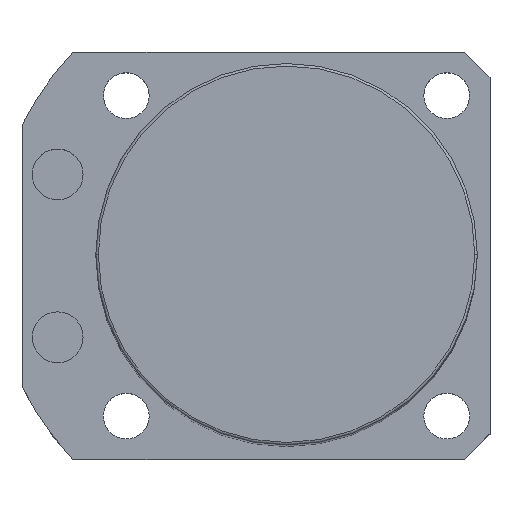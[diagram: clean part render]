
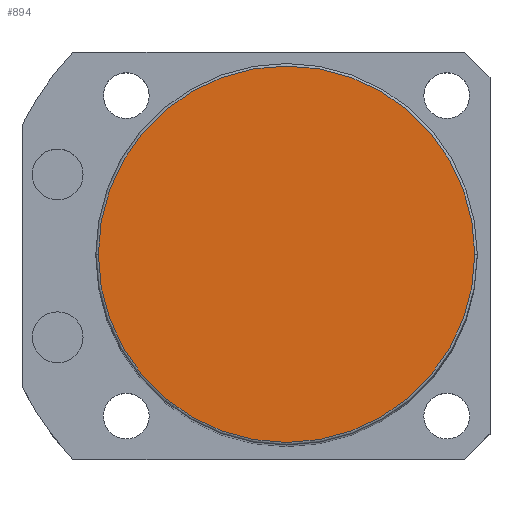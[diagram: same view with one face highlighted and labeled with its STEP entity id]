
A CAD part, top view. The second image highlights one B-rep face of the part: STEP entity #894.
In plain terms, the highlighted planar face has unit normal (0, 0, 1).
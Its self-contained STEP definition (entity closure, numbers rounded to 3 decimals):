
#1 = ORIENTED_EDGE ( 'NONE', *, *, #1747, .T. ) ;
#532 = DIRECTION ( 'NONE',  ( 1., 0., 0. ) ) ;
#774 = DIRECTION ( 'NONE',  ( 0., 0., 1. ) ) ;
#875 = VERTEX_POINT ( 'NONE', #1672 ) ;
#894 = ADVANCED_FACE ( 'NONE', ( #2350 ), #1665, .T. ) ;
#1019 = EDGE_CURVE ( 'NONE', #2156, #875, #1961, .T. ) ;
#1205 = CARTESIAN_POINT ( 'NONE',  ( 0., 0., 200.5 ) ) ;
#1225 = CARTESIAN_POINT ( 'NONE',  ( 0., 0., 200.5 ) ) ;
#1260 = EDGE_LOOP ( 'NONE', ( #1564, #1 ) ) ;
#1286 = DIRECTION ( 'NONE',  ( 1., 0., 0. ) ) ;
#1429 = AXIS2_PLACEMENT_3D ( 'NONE', #1205, #774, #532 ) ;
#1475 = DIRECTION ( 'NONE',  ( 1., 0., 0. ) ) ;
#1564 = ORIENTED_EDGE ( 'NONE', *, *, #1019, .T. ) ;
#1665 = PLANE ( 'NONE',  #2101 ) ;
#1672 = CARTESIAN_POINT ( 'NONE',  ( -37., 0., 200.5 ) ) ;
#1747 = EDGE_CURVE ( 'NONE', #875, #2156, #2375, .T. ) ;
#1925 = DIRECTION ( 'NONE',  ( 0., 0., 1. ) ) ;
#1961 = CIRCLE ( 'NONE', #2465, 37. ) ;
#2101 = AXIS2_PLACEMENT_3D ( 'NONE', #1225, #2577, #1475 ) ;
#2156 = VERTEX_POINT ( 'NONE', #2631 ) ;
#2350 = FACE_OUTER_BOUND ( 'NONE', #1260, .T. ) ;
#2375 = CIRCLE ( 'NONE', #1429, 37. ) ;
#2465 = AXIS2_PLACEMENT_3D ( 'NONE', #2840, #1925, #1286 ) ;
#2577 = DIRECTION ( 'NONE',  ( 0., 0., 1. ) ) ;
#2631 = CARTESIAN_POINT ( 'NONE',  ( 37., 0., 200.5 ) ) ;
#2840 = CARTESIAN_POINT ( 'NONE',  ( 0., 0., 200.5 ) ) ;
